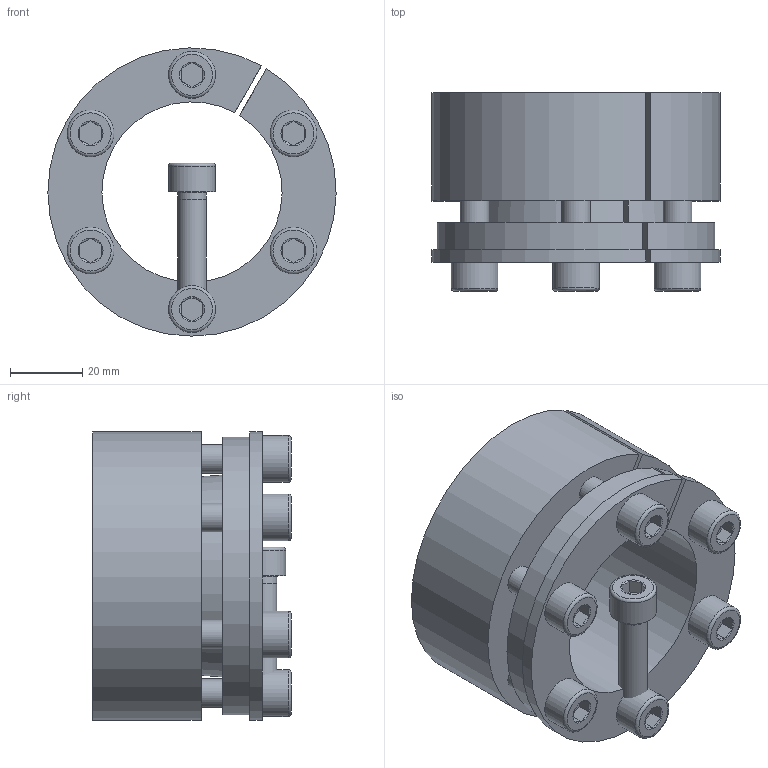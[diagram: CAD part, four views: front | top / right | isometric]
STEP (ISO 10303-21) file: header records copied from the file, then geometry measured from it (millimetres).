
FILE_DESCRIPTION( ( 'Unknown' ), '1' );
FILE_NAME( 'C:/Dokumente und Einstellungen/Sven/Desktop/homepage/cad - homepage/KBS70/KBS 70 - 50 x 80.stp', 'Unknown', ( 'Unknown' ), ( 'Unknown' ), 'XStep 1.0', 'Unknown', ' ' );
FILE_SCHEMA( ( 'automotive_design' ) );
Length unit declared in the file: millimetre
Products named in the file (3): Assem1; KBS 70 - 50 x 80; ISO EN DIN 4762 M8x30
Bounding box: 80 x 55 x 79.99 mm (x, y, z)
Volume: 240943.4 mm3; surface area: 82012.3 mm2
Topology: 9 solids, 9 shells, 227 faces, 467 edges, 286 vertices
Faces by surface type: plane 100, cylinder 60, cone 53, torus 14
Full cylindrical faces by diameter (mm): 7 x7, 8 x38, 13 x7
Entity records: 1694 total; most frequent: CARTESIAN_POINT 283, DIRECTION 256, ORIENTED_EDGE 190, AXIS2_PLACEMENT_3D 112, EDGE_LOOP 98, EDGE_CURVE 95, VERTEX_POINT 71, FACE_OUTER_BOUND 69
